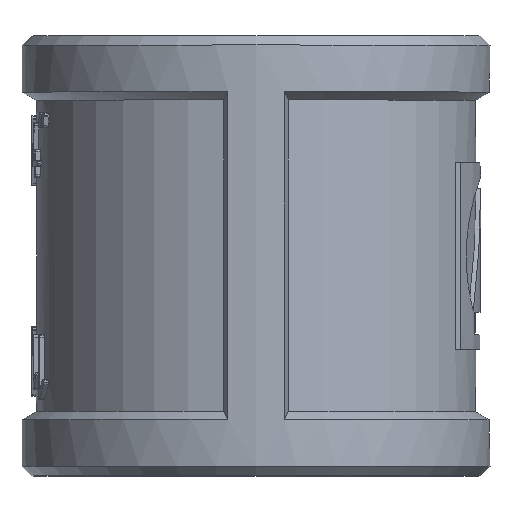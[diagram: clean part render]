
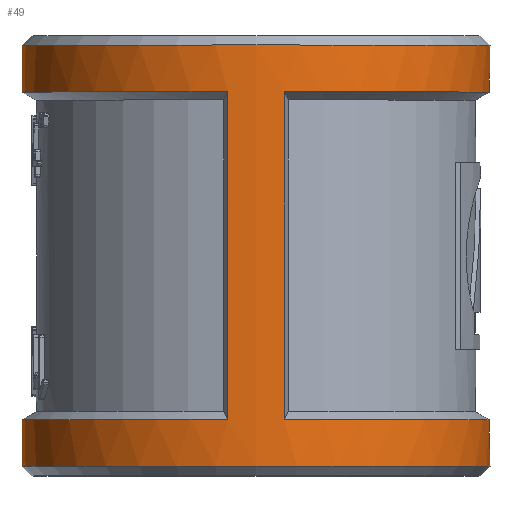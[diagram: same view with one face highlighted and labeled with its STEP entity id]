
A CAD part, top view. The second image highlights one B-rep face of the part: STEP entity #49.
In plain terms, the highlighted cylindrical face has radius 25 mm (diameter 50 mm), a full revolution.
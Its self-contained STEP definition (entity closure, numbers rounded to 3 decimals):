
#49=ADVANCED_FACE('',(#329,#331,#333,#335),#337,.T.);
#329=FACE_BOUND('',#330,.T.);
#330=EDGE_LOOP('',(#1898,#1899,#1900,#1901,#1902,#1903));
#331=FACE_OUTER_BOUND('',#332,.T.);
#332=EDGE_LOOP('',(#1904));
#333=FACE_OUTER_BOUND('',#334,.T.);
#334=EDGE_LOOP('',(#1905));
#335=FACE_BOUND('',#336,.T.);
#336=EDGE_LOOP('',(#1906,#1907,#1908,#1909));
#337=CYLINDRICAL_SURFACE('',#338,25.);
#338=AXIS2_PLACEMENT_3D('',#339,#340,#341);
#339=CARTESIAN_POINT('',(0.,-17.5,0.));
#340=DIRECTION('',(0.,1.,0.));
#341=DIRECTION('',(-1.,0.,0.));
#1898=ORIENTED_EDGE('',*,*,#3584,.F.);
#1899=ORIENTED_EDGE('',*,*,#3585,.F.);
#1900=ORIENTED_EDGE('',*,*,#3586,.F.);
#1901=ORIENTED_EDGE('',*,*,#3587,.T.);
#1902=ORIENTED_EDGE('',*,*,#3588,.F.);
#1903=ORIENTED_EDGE('',*,*,#3589,.F.);
#1904=ORIENTED_EDGE('',*,*,#3582,.F.);
#1905=ORIENTED_EDGE('',*,*,#3583,.T.);
#1906=ORIENTED_EDGE('',*,*,#3590,.F.);
#1907=ORIENTED_EDGE('',*,*,#3591,.T.);
#1908=ORIENTED_EDGE('',*,*,#3592,.F.);
#1909=ORIENTED_EDGE('',*,*,#3593,.F.);
#3582=EDGE_CURVE('',#4243,#4243,#4244,.T.);
#3583=EDGE_CURVE('',#4245,#4245,#4246,.T.);
#3584=EDGE_CURVE('',#4247,#4248,#4249,.T.);
#3585=EDGE_CURVE('',#4250,#4247,#4251,.T.);
#3586=EDGE_CURVE('',#4252,#4250,#4253,.T.);
#3587=EDGE_CURVE('',#4252,#4254,#4255,.T.);
#3588=EDGE_CURVE('',#4256,#4254,#4257,.F.);
#3589=EDGE_CURVE('',#4248,#4256,#4258,.F.);
#3590=EDGE_CURVE('',#4259,#4260,#4261,.T.);
#3591=EDGE_CURVE('',#4259,#4262,#4263,.T.);
#3592=EDGE_CURVE('',#4264,#4262,#4265,.F.);
#3593=EDGE_CURVE('',#4260,#4264,#4266,.T.);
#4243=VERTEX_POINT('',#5356);
#4244=CIRCLE('',#5357,25.);
#4245=VERTEX_POINT('',#5361);
#4246=CIRCLE('',#5362,25.);
#4247=VERTEX_POINT('',#5366);
#4248=VERTEX_POINT('',#5367);
#4249=LINE('',#5368,#5369);
#4250=VERTEX_POINT('',#5371);
#4251=CIRCLE('',#5372,25.);
#4252=VERTEX_POINT('',#5376);
#4253=CIRCLE('',#5377,25.);
#4254=VERTEX_POINT('',#5381);
#4255=LINE('',#5382,#5383);
#4256=VERTEX_POINT('',#5385);
#4257=CIRCLE('',#5386,25.);
#4258=CIRCLE('',#5390,25.);
#4259=VERTEX_POINT('',#5394);
#4260=VERTEX_POINT('',#5395);
#4261=CIRCLE('',#5396,25.);
#4262=VERTEX_POINT('',#5400);
#4263=LINE('',#5401,#5402);
#4264=VERTEX_POINT('',#5404);
#4265=CIRCLE('',#5405,25.);
#4266=LINE('',#5409,#5410);
#5356=CARTESIAN_POINT('',(-25.,22.5,0.));
#5357=AXIS2_PLACEMENT_3D('',#5358,#5359,#5360);
#5358=CARTESIAN_POINT('',(0.,22.5,0.));
#5359=DIRECTION('',(0.,1.,0.));
#5360=DIRECTION('',(-1.,0.,0.));
#5361=CARTESIAN_POINT('',(-25.,-22.5,0.));
#5362=AXIS2_PLACEMENT_3D('',#5363,#5364,#5365);
#5363=CARTESIAN_POINT('',(0.,-22.5,0.));
#5364=DIRECTION('',(0.,1.,0.));
#5365=DIRECTION('',(-1.,0.,0.));
#5366=CARTESIAN_POINT('',(-3.,-17.5,24.819));
#5367=CARTESIAN_POINT('',(-3.,17.5,24.819));
#5368=CARTESIAN_POINT('',(-3.,-17.5,24.819));
#5369=VECTOR('',#5370,1.);
#5370=DIRECTION('',(0.,1.,0.));
#5371=CARTESIAN_POINT('',(-25.,-17.5,0.));
#5372=AXIS2_PLACEMENT_3D('',#5373,#5374,#5375);
#5373=CARTESIAN_POINT('',(0.,-17.5,0.));
#5374=DIRECTION('',(0.,1.,0.));
#5375=DIRECTION('',(-1.,0.,0.));
#5376=CARTESIAN_POINT('',(-3.,-17.5,-24.819));
#5377=AXIS2_PLACEMENT_3D('',#5378,#5379,#5380);
#5378=CARTESIAN_POINT('',(0.,-17.5,0.));
#5379=DIRECTION('',(0.,1.,0.));
#5380=DIRECTION('',(-0.12,0.,-0.993));
#5381=CARTESIAN_POINT('',(-3.,17.5,-24.819));
#5382=CARTESIAN_POINT('',(-3.,-17.5,-24.819));
#5383=VECTOR('',#5384,1.);
#5384=DIRECTION('',(0.,1.,0.));
#5385=CARTESIAN_POINT('',(-25.,17.5,0.));
#5386=AXIS2_PLACEMENT_3D('',#5387,#5388,#5389);
#5387=CARTESIAN_POINT('',(0.,17.5,0.));
#5388=DIRECTION('',(0.,1.,0.));
#5389=DIRECTION('',(-0.12,0.,-0.993));
#5390=AXIS2_PLACEMENT_3D('',#5391,#5392,#5393);
#5391=CARTESIAN_POINT('',(0.,17.5,0.));
#5392=DIRECTION('',(0.,1.,0.));
#5393=DIRECTION('',(-1.,0.,0.));
#5394=CARTESIAN_POINT('',(3.,-17.5,24.819));
#5395=CARTESIAN_POINT('',(3.,-17.5,-24.819));
#5396=AXIS2_PLACEMENT_3D('',#5397,#5398,#5399);
#5397=CARTESIAN_POINT('',(0.,-17.5,0.));
#5398=DIRECTION('',(0.,1.,0.));
#5399=DIRECTION('',(0.12,0.,0.993));
#5400=CARTESIAN_POINT('',(3.,17.5,24.819));
#5401=CARTESIAN_POINT('',(3.,-17.5,24.819));
#5402=VECTOR('',#5403,1.);
#5403=DIRECTION('',(0.,1.,0.));
#5404=CARTESIAN_POINT('',(3.,17.5,-24.819));
#5405=AXIS2_PLACEMENT_3D('',#5406,#5407,#5408);
#5406=CARTESIAN_POINT('',(0.,17.5,0.));
#5407=DIRECTION('',(0.,1.,0.));
#5408=DIRECTION('',(0.12,0.,0.993));
#5409=CARTESIAN_POINT('',(3.,-17.5,-24.819));
#5410=VECTOR('',#5411,1.);
#5411=DIRECTION('',(0.,1.,0.));
